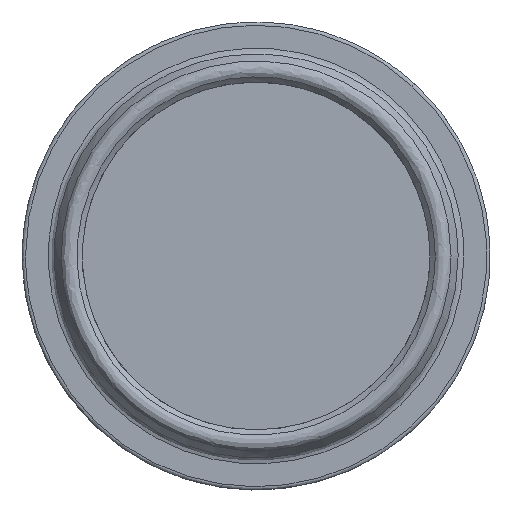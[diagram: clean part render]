
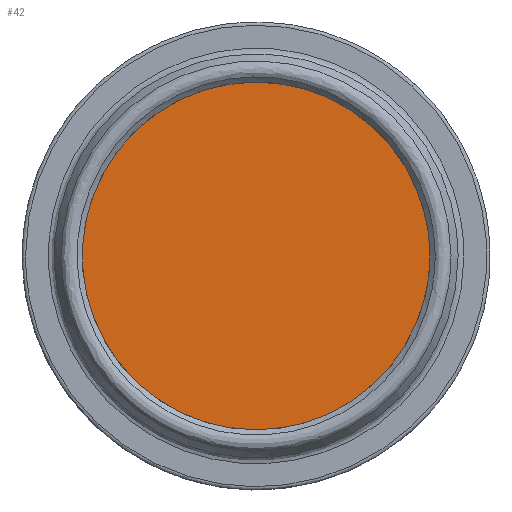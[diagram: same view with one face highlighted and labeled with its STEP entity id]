
A CAD part, top view. The second image highlights one B-rep face of the part: STEP entity #42.
In plain terms, the highlighted planar face has unit normal (0, 0, 1).
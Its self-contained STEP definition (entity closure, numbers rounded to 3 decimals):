
#42=ADVANCED_FACE('',(#68),#273,.T.);
#68=FACE_OUTER_BOUND('',#94,.T.);
#94=EDGE_LOOP('',(#156));
#156=ORIENTED_EDGE('',*,*,#188,.F.);
#188=EDGE_CURVE('',#247,#247,#222,.T.);
#222=(
BOUNDED_CURVE()
B_SPLINE_CURVE(2,(#721,#722,#723,#724,#725,#726,#727,#728,#729),
 .UNSPECIFIED.,.T.,.F.)
B_SPLINE_CURVE_WITH_KNOTS((3,2,2,2,3),(-191.637,-143.728,
-95.819,-47.909,0.),.UNSPECIFIED.)
CURVE()
GEOMETRIC_REPRESENTATION_ITEM()
RATIONAL_B_SPLINE_CURVE((1.,0.707,1.,0.707,1.,0.707,
1.,0.707,1.))
REPRESENTATION_ITEM('')
);
#247=VERTEX_POINT('',#569);
#273=PLANE('',#306);
#306=AXIS2_PLACEMENT_3D('',#500,#322,$);
#322=DIRECTION('',(0.,0.,1.));
#500=CARTESIAN_POINT('',(-26.52,-26.52,36.3));
#569=CARTESIAN_POINT('',(26.,0.,36.3));
#721=CARTESIAN_POINT('',(26.,0.,36.3));
#722=CARTESIAN_POINT('',(26.,-26.,36.3));
#723=CARTESIAN_POINT('',(0.,-26.,36.3));
#724=CARTESIAN_POINT('',(-26.,-26.,36.3));
#725=CARTESIAN_POINT('',(-26.,0.,36.3));
#726=CARTESIAN_POINT('',(-26.,26.,36.3));
#727=CARTESIAN_POINT('',(0.,26.,36.3));
#728=CARTESIAN_POINT('',(26.,26.,36.3));
#729=CARTESIAN_POINT('',(26.,0.,36.3));
